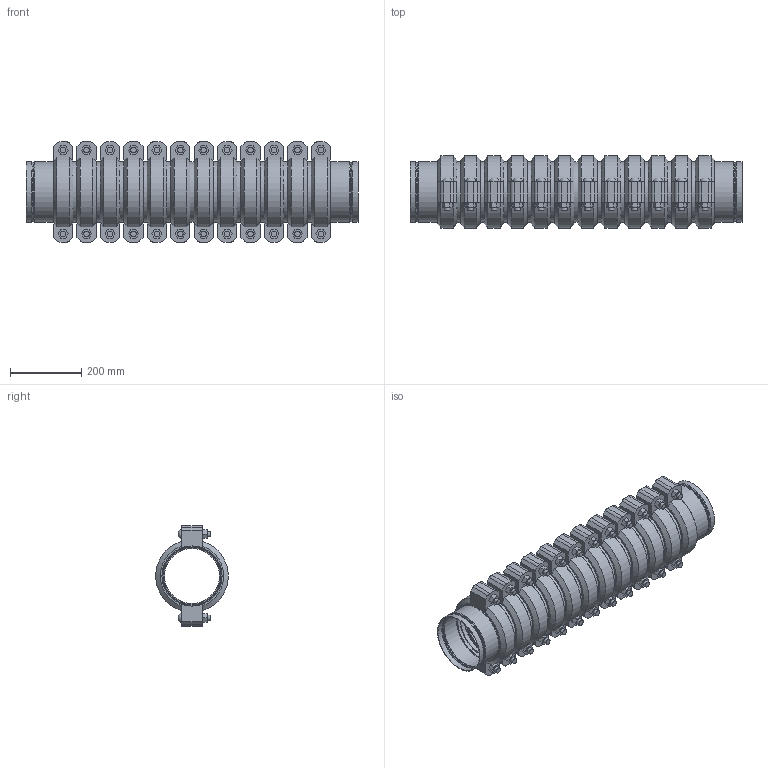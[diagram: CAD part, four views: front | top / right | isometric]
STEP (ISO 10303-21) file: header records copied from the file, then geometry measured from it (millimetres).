
FILE_DESCRIPTION(/* description */ ('VIC STRENGTHIN 100 EXPANSION JOINT 12 COUPLINGS NEUTRAL STYLE E155 (ST1)','CAx-IF Rec.Pracs.---Representation and Presentation of Product Manufacturing Information (PMI)---4.0---2014-10-13'),/* implementation_level */ '2;1');
FILE_NAME(/* name */ 'C:\Users\Vjadhav\AppData\Roaming\Autodesk\ApplicationPlugins\Victaulic.Temp\A29\Victaulic_SS-StrengThin 100_Expansion Joint_Neutral_12 Couplings_Style E155 (ST1)_12 Coup_Neut_6 (150).stp',/* time_stamp */ '2021-07-20T17:42:35+05:00',/* author */ ('kkamble'),/* organization */ ('Victaulic'),/* preprocessor_version */ 'ST-DEVELOPER v17.2',/* originating_system */ 'Autodesk Inventor 2019',/* authorisation */ '');
FILE_SCHEMA (('AP242_MANAGED_MODEL_BASED_3D_ENGINEERING_MIM_LF { 1 0 10303 442 1 1 4 }'));
Length unit declared in the file: inch
Products named in the file (4): E155-06.0; E494G-06.0; Nipple-06.0; 075-06.0
Assembly tree (25 placements, depth 2):
  E155-06.0
    E494G-06.0  x2
    Nipple-06.0  x11
    075-06.0  x12
Bounding box: 930.91 x 202.46 x 281.18 mm (x, y, z)
Volume: 11432121.4 mm3; surface area: 2384328.3 mm2
Topology: 25 solids, 49 shells, 884 faces, 2148 edges, 1510 vertices
Faces by surface type: plane 510, cylinder 266, cone 52, torus 32, bspline 24
Full cylindrical faces by diameter (mm): 15.875 x48, 17.424 x24, 154.051 x11, 159.258 x2, 159.944 x2, 161.925 x12, 163.271 x2, 163.957 x24, 164.262 x6, 168.275 x63
Entity records: 3862 total; most frequent: DIRECTION 693, CARTESIAN_POINT 671, ORIENTED_EDGE 548, AXIS2_PLACEMENT_3D 297, EDGE_CURVE 274, VERTEX_POINT 197, CIRCLE 167, EDGE_LOOP 129
